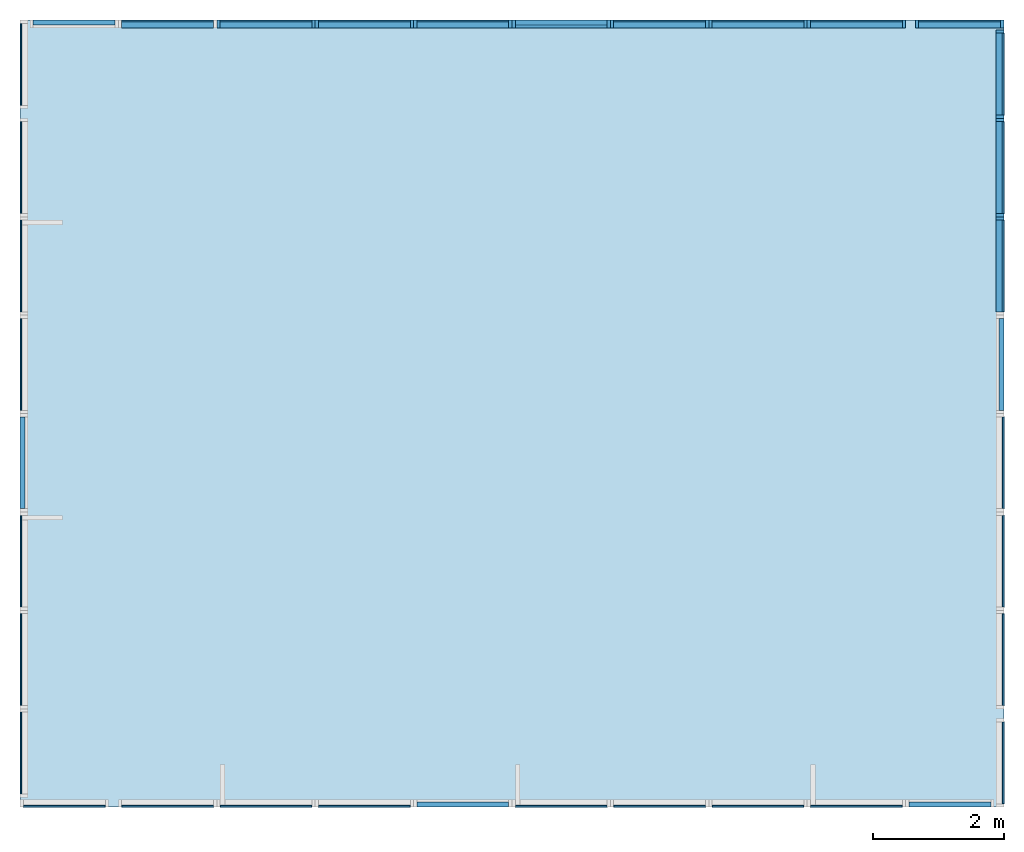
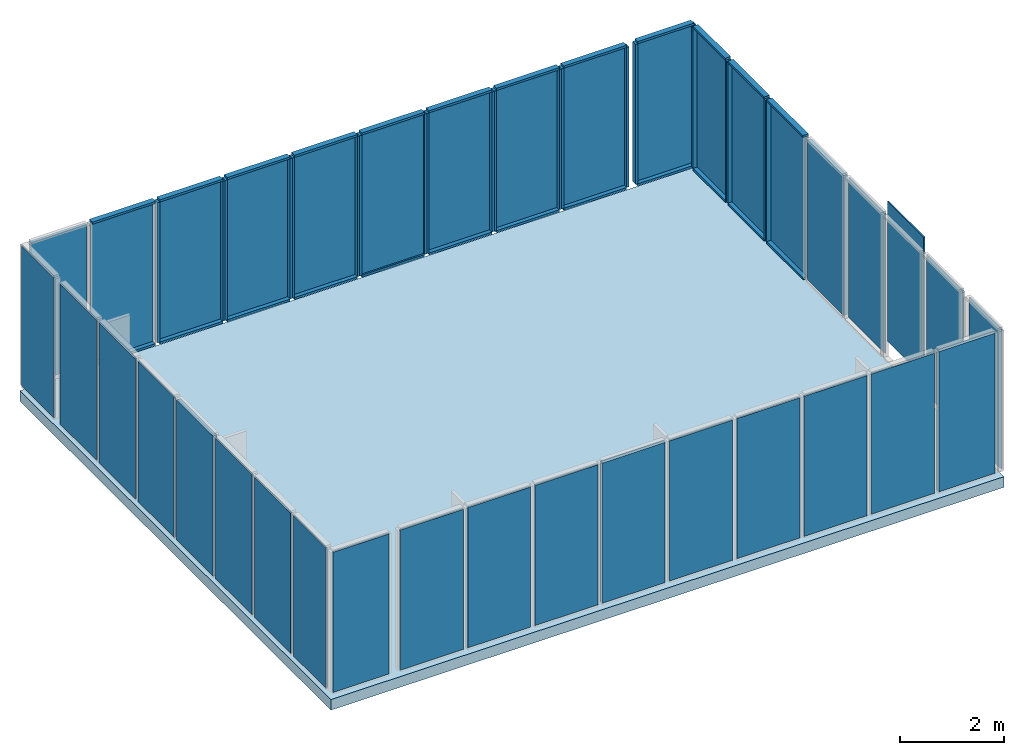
# One storey, part 2 of 2: 45 members, 36 plates, 1 slab.
"""IFC4 building model written with IfcOpenShell, lengths in metres."""

from ifc_helpers import new_model, si_unit, frame, origin_with_axes, place, context, subcontext, project, spatial, indexed_curve, outline, extrude, material, element, save


model = new_model("IFC4")

# Units and contexts
model_context_1 = context("Model", 3, precision=1e-05, world=origin_with_axes())
model_context_2 = context("Model", 3, precision=1e-05, world=origin_with_axes())
body_context_1 = subcontext(model_context_1, "Body", "Model", "MODEL_VIEW")
body_context_2 = subcontext(model_context_2, "Body", "Model", "MODEL_VIEW")
ifc_project = project(units=[si_unit("AREAUNIT", "SQUARE_METRE"), si_unit("VOLUMEUNIT", "CUBIC_METRE"), si_unit("LENGTHUNIT", "METRE")], contexts=[model_context_1])

# Site, building, storey
site = spatial("IfcSite", under=ifc_project, Name="Synthetic Site")
building = spatial("IfcBuilding", under=site, Name="Complex Tower")
storey_placement = place(None, frame((0.0, 0.0, 37.8), z_axis=(0.0, 0.0, 1.0), x_axis=(1.0, 0.0, 0.0)))
storey = spatial("IfcBuildingStorey", under=building, at=storey_placement, Name="L11", Elevation=37.8)

# Members
ifc_material_1 = material(Name="Aluminium")
member_placement = place(storey_placement, frame((21.0, 11.950000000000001, 0.14999999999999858), z_axis=(0.0, 0.0, 1.0), x_axis=(6.123233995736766e-17, 1.0, 0.0)))
element("IfcMember", 1, at=member_placement, inside=storey, material=ifc_material_1, Name="CT-L11-E-006-MR", PredefinedType="MULLION", context=body_context_1, shape_type="SweptSolid", body=[
    extrude(outline(indexed_curve([(0.0, 0.0), (0.0, 0.12), (0.05, 0.12), (0.05, 0.0), (0.0, 0.0)], self_intersect=False)), origin_with_axes(), (0.0, 0.0, 1.0), 3.3000000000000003),
])
for number, where, z_axis, x_axis, name in (
    (2, (21.0, 10.55, 0.10000000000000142), (0.0, 0.0, 1.0), (6.123233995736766e-17, 1.0, 0.0), "CT-L11-E-006-FB"),
    (3, (21.0, 10.55, 3.4499999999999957), (0.0, 0.0, 1.0), (6.123233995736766e-17, 1.0, 0.0), "CT-L11-E-006-FT"),
):
    element("IfcMember", number, at=place(storey_placement, frame(where, z_axis=z_axis, x_axis=x_axis)), inside=storey, material=ifc_material_1, Name=name, PredefinedType="MULLION", context=body_context_1, shape_type="SweptSolid", body=[
        extrude(outline(indexed_curve([(0.0, 0.0), (0.0, 0.12), (1.4, 0.12), (1.4, 0.0), (0.0, 0.0)], self_intersect=False)), origin_with_axes(), (0.0, 0.0, 1.0), 0.05),
    ])
for number, where, z_axis, x_axis, name in (
    (4, (21.0, 12.0, 0.14999999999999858), (0.0, 0.0, 1.0), (6.123233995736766e-17, 1.0, 0.0), "CT-L11-E-007-ML"),
    (5, (21.0, 13.450000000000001, 0.14999999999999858), (0.0, 0.0, 1.0), (6.123233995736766e-17, 1.0, 0.0), "CT-L11-E-007-MR"),
):
    element("IfcMember", number, at=place(storey_placement, frame(where, z_axis=z_axis, x_axis=x_axis)), inside=storey, material=ifc_material_1, Name=name, PredefinedType="MULLION", context=body_context_1, shape_type="SweptSolid", body=[
        extrude(outline(indexed_curve([(0.0, 0.0), (0.0, 0.12), (0.05, 0.12), (0.05, 0.0), (0.0, 0.0)], self_intersect=False)), origin_with_axes(), (0.0, 0.0, 1.0), 3.3000000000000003),
    ])
for number, where, z_axis, x_axis, name in (
    (6, (21.0, 12.05, 0.10000000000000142), (0.0, 0.0, 1.0), (6.123233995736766e-17, 1.0, 0.0), "CT-L11-E-007-FB"),
    (7, (21.0, 12.05, 3.4499999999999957), (0.0, 0.0, 1.0), (6.123233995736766e-17, 1.0, 0.0), "CT-L11-E-007-FT"),
):
    element("IfcMember", number, at=place(storey_placement, frame(where, z_axis=z_axis, x_axis=x_axis)), inside=storey, material=ifc_material_1, Name=name, PredefinedType="MULLION", context=body_context_1, shape_type="SweptSolid", body=[
        extrude(outline(indexed_curve([(0.0, 0.0), (0.0, 0.12), (1.4, 0.12), (1.4, 0.0), (0.0, 0.0)], self_intersect=False)), origin_with_axes(), (0.0, 0.0, 1.0), 0.05),
    ])
for number, where, z_axis, x_axis, name in (
    (8, (21.0, 13.5, 0.14999999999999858), (0.0, 0.0, 1.0), (6.123233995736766e-17, 1.0, 0.0), "CT-L11-E-008-ML"),
    (9, (21.0, 14.8, 0.14999999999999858), (0.0, 0.0, 1.0), (6.123233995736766e-17, 1.0, 0.0), "CT-L11-E-008-MR"),
):
    element("IfcMember", number, at=place(storey_placement, frame(where, z_axis=z_axis, x_axis=x_axis)), inside=storey, material=ifc_material_1, Name=name, PredefinedType="MULLION", context=body_context_1, shape_type="SweptSolid", body=[
        extrude(outline(indexed_curve([(0.0, 0.0), (0.0, 0.12), (0.05, 0.12), (0.05, 0.0), (0.0, 0.0)], self_intersect=False)), origin_with_axes(), (0.0, 0.0, 1.0), 3.3000000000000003),
    ])
for number, where, z_axis, x_axis, name in (
    (10, (21.0, 13.55, 0.10000000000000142), (0.0, 0.0, 1.0), (6.123233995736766e-17, 1.0, 0.0), "CT-L11-E-008-FB"),
    (11, (21.0, 13.55, 3.4499999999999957), (0.0, 0.0, 1.0), (6.123233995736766e-17, 1.0, 0.0), "CT-L11-E-008-FT"),
):
    element("IfcMember", number, at=place(storey_placement, frame(where, z_axis=z_axis, x_axis=x_axis)), inside=storey, material=ifc_material_1, Name=name, PredefinedType="MULLION", context=body_context_1, shape_type="SweptSolid", body=[
        extrude(outline(indexed_curve([(0.0, 0.0), (0.0, 0.12), (1.25, 0.12), (1.25, 0.0), (0.0, 0.0)], self_intersect=False)), origin_with_axes(), (0.0, 0.0, 1.0), 0.05),
    ])
for number, where, z_axis, x_axis, name in (
    (12, (21.0, 15.0, 0.14999999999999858), (0.0, 0.0, 1.0), (-1.0, 1.2246467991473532e-16, 0.0), "CT-L11-N-001-ML"),
    (13, (19.7, 15.0, 0.14999999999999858), (0.0, 0.0, 1.0), (-1.0, 1.2246467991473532e-16, 0.0), "CT-L11-N-001-MR"),
):
    element("IfcMember", number, at=place(storey_placement, frame(where, z_axis=z_axis, x_axis=x_axis)), inside=storey, material=ifc_material_1, Name=name, PredefinedType="MULLION", context=body_context_1, shape_type="SweptSolid", body=[
        extrude(outline(indexed_curve([(0.0, 0.0), (0.0, 0.12), (0.05, 0.12), (0.05, 0.0), (0.0, 0.0)], self_intersect=False)), origin_with_axes(), (0.0, 0.0, 1.0), 3.3000000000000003),
    ])
for number, where, z_axis, x_axis, name in (
    (14, (20.95, 15.0, 0.10000000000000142), (0.0, 0.0, 1.0), (-1.0, 1.2246467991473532e-16, 0.0), "CT-L11-N-001-FB"),
    (15, (20.95, 15.0, 3.4499999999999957), (0.0, 0.0, 1.0), (-1.0, 1.2246467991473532e-16, 0.0), "CT-L11-N-001-FT"),
):
    element("IfcMember", number, at=place(storey_placement, frame(where, z_axis=z_axis, x_axis=x_axis)), inside=storey, material=ifc_material_1, Name=name, PredefinedType="MULLION", context=body_context_1, shape_type="SweptSolid", body=[
        extrude(outline(indexed_curve([(0.0, 0.0), (0.0, 0.12), (1.25, 0.12), (1.25, 0.0), (0.0, 0.0)], self_intersect=False)), origin_with_axes(), (0.0, 0.0, 1.0), 0.05),
    ])
for number, where, z_axis, x_axis, name in (
    (16, (19.5, 15.0, 0.14999999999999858), (0.0, 0.0, 1.0), (-1.0, 1.2246467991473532e-16, 0.0), "CT-L11-N-002-ML"),
    (17, (18.05, 15.0, 0.14999999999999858), (0.0, 0.0, 1.0), (-1.0, 1.2246467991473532e-16, 0.0), "CT-L11-N-002-MR"),
):
    element("IfcMember", number, at=place(storey_placement, frame(where, z_axis=z_axis, x_axis=x_axis)), inside=storey, material=ifc_material_1, Name=name, PredefinedType="MULLION", context=body_context_1, shape_type="SweptSolid", body=[
        extrude(outline(indexed_curve([(0.0, 0.0), (0.0, 0.12), (0.05, 0.12), (0.05, 0.0), (0.0, 0.0)], self_intersect=False)), origin_with_axes(), (0.0, 0.0, 1.0), 3.3000000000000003),
    ])
for number, where, z_axis, x_axis, name in (
    (18, (19.45, 15.0, 0.10000000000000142), (0.0, 0.0, 1.0), (-1.0, 1.2246467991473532e-16, 0.0), "CT-L11-N-002-FB"),
    (19, (19.45, 15.0, 3.4499999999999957), (0.0, 0.0, 1.0), (-1.0, 1.2246467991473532e-16, 0.0), "CT-L11-N-002-FT"),
):
    element("IfcMember", number, at=place(storey_placement, frame(where, z_axis=z_axis, x_axis=x_axis)), inside=storey, material=ifc_material_1, Name=name, PredefinedType="MULLION", context=body_context_1, shape_type="SweptSolid", body=[
        extrude(outline(indexed_curve([(0.0, 0.0), (0.0, 0.12), (1.4, 0.12), (1.4, 0.0), (0.0, 0.0)], self_intersect=False)), origin_with_axes(), (0.0, 0.0, 1.0), 0.05),
    ])
for number, where, z_axis, x_axis, name in (
    (20, (18.0, 15.0, 0.14999999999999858), (0.0, 0.0, 1.0), (-1.0, 1.2246467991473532e-16, 0.0), "CT-L11-N-003-ML"),
    (21, (16.55, 15.0, 0.14999999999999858), (0.0, 0.0, 1.0), (-1.0, 1.2246467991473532e-16, 0.0), "CT-L11-N-003-MR"),
):
    element("IfcMember", number, at=place(storey_placement, frame(where, z_axis=z_axis, x_axis=x_axis)), inside=storey, material=ifc_material_1, Name=name, PredefinedType="MULLION", context=body_context_1, shape_type="SweptSolid", body=[
        extrude(outline(indexed_curve([(0.0, 0.0), (0.0, 0.12), (0.05, 0.12), (0.05, 0.0), (0.0, 0.0)], self_intersect=False)), origin_with_axes(), (0.0, 0.0, 1.0), 3.3000000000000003),
    ])
for number, where, z_axis, x_axis, name in (
    (22, (17.95, 15.0, 0.10000000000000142), (0.0, 0.0, 1.0), (-1.0, 1.2246467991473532e-16, 0.0), "CT-L11-N-003-FB"),
    (23, (17.95, 15.0, 3.4499999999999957), (0.0, 0.0, 1.0), (-1.0, 1.2246467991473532e-16, 0.0), "CT-L11-N-003-FT"),
):
    element("IfcMember", number, at=place(storey_placement, frame(where, z_axis=z_axis, x_axis=x_axis)), inside=storey, material=ifc_material_1, Name=name, PredefinedType="MULLION", context=body_context_1, shape_type="SweptSolid", body=[
        extrude(outline(indexed_curve([(0.0, 0.0), (0.0, 0.12), (1.4, 0.12), (1.4, 0.0), (0.0, 0.0)], self_intersect=False)), origin_with_axes(), (0.0, 0.0, 1.0), 0.05),
    ])
for number, where, z_axis, x_axis, name in (
    (24, (16.5, 15.0, 0.14999999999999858), (0.0, 0.0, 1.0), (-1.0, 1.2246467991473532e-16, 0.0), "CT-L11-N-004-ML"),
    (25, (15.049999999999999, 15.0, 0.14999999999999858), (0.0, 0.0, 1.0), (-1.0, 1.2246467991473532e-16, 0.0), "CT-L11-N-004-MR"),
):
    element("IfcMember", number, at=place(storey_placement, frame(where, z_axis=z_axis, x_axis=x_axis)), inside=storey, material=ifc_material_1, Name=name, PredefinedType="MULLION", context=body_context_1, shape_type="SweptSolid", body=[
        extrude(outline(indexed_curve([(0.0, 0.0), (0.0, 0.12), (0.05, 0.12), (0.05, 0.0), (0.0, 0.0)], self_intersect=False)), origin_with_axes(), (0.0, 0.0, 1.0), 3.3000000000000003),
    ])
for number, where, z_axis, x_axis, name in (
    (26, (16.45, 15.0, 0.10000000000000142), (0.0, 0.0, 1.0), (-1.0, 1.2246467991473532e-16, 0.0), "CT-L11-N-004-FB"),
    (27, (16.45, 15.0, 3.4499999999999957), (0.0, 0.0, 1.0), (-1.0, 1.2246467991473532e-16, 0.0), "CT-L11-N-004-FT"),
):
    element("IfcMember", number, at=place(storey_placement, frame(where, z_axis=z_axis, x_axis=x_axis)), inside=storey, material=ifc_material_1, Name=name, PredefinedType="MULLION", context=body_context_1, shape_type="SweptSolid", body=[
        extrude(outline(indexed_curve([(0.0, 0.0), (0.0, 0.12), (1.4, 0.12), (1.4, 0.0), (0.0, 0.0)], self_intersect=False)), origin_with_axes(), (0.0, 0.0, 1.0), 0.05),
    ])
for number, where, z_axis, x_axis, name in (
    (28, (15.0, 15.0, 0.14999999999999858), (0.0, 0.0, 1.0), (-1.0, 1.2246467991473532e-16, 0.0), "CT-L11-N-005-ML"),
    (29, (13.549999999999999, 15.0, 0.14999999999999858), (0.0, 0.0, 1.0), (-1.0, 1.2246467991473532e-16, 0.0), "CT-L11-N-005-MR"),
):
    element("IfcMember", number, at=place(storey_placement, frame(where, z_axis=z_axis, x_axis=x_axis)), inside=storey, material=ifc_material_1, Name=name, PredefinedType="MULLION", context=body_context_1, shape_type="SweptSolid", body=[
        extrude(outline(indexed_curve([(0.0, 0.0), (0.0, 0.12), (0.05, 0.12), (0.05, 0.0), (0.0, 0.0)], self_intersect=False)), origin_with_axes(), (0.0, 0.0, 1.0), 3.3000000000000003),
    ])
for number, where, z_axis, x_axis, name in (
    (30, (14.95, 15.0, 0.10000000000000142), (0.0, 0.0, 1.0), (-1.0, 1.2246467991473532e-16, 0.0), "CT-L11-N-005-FB"),
    (31, (14.95, 15.0, 3.4499999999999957), (0.0, 0.0, 1.0), (-1.0, 1.2246467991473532e-16, 0.0), "CT-L11-N-005-FT"),
):
    element("IfcMember", number, at=place(storey_placement, frame(where, z_axis=z_axis, x_axis=x_axis)), inside=storey, material=ifc_material_1, Name=name, PredefinedType="MULLION", context=body_context_1, shape_type="SweptSolid", body=[
        extrude(outline(indexed_curve([(0.0, 0.0), (0.0, 0.12), (1.4, 0.12), (1.4, 0.0), (0.0, 0.0)], self_intersect=False)), origin_with_axes(), (0.0, 0.0, 1.0), 0.05),
    ])
for number, where, z_axis, x_axis, name in (
    (32, (13.5, 15.000000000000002, 0.14999999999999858), (0.0, 0.0, 1.0), (-1.0, 1.2246467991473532e-16, 0.0), "CT-L11-N-006-ML"),
    (33, (12.049999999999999, 15.000000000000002, 0.14999999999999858), (0.0, 0.0, 1.0), (-1.0, 1.2246467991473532e-16, 0.0), "CT-L11-N-006-MR"),
):
    element("IfcMember", number, at=place(storey_placement, frame(where, z_axis=z_axis, x_axis=x_axis)), inside=storey, material=ifc_material_1, Name=name, PredefinedType="MULLION", context=body_context_1, shape_type="SweptSolid", body=[
        extrude(outline(indexed_curve([(0.0, 0.0), (0.0, 0.12), (0.05, 0.12), (0.05, 0.0), (0.0, 0.0)], self_intersect=False)), origin_with_axes(), (0.0, 0.0, 1.0), 3.3000000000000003),
    ])
for number, where, z_axis, x_axis, name in (
    (34, (13.45, 15.000000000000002, 0.10000000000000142), (0.0, 0.0, 1.0), (-1.0, 1.2246467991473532e-16, 0.0), "CT-L11-N-006-FB"),
    (35, (13.45, 15.000000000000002, 3.4499999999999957), (0.0, 0.0, 1.0), (-1.0, 1.2246467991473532e-16, 0.0), "CT-L11-N-006-FT"),
):
    element("IfcMember", number, at=place(storey_placement, frame(where, z_axis=z_axis, x_axis=x_axis)), inside=storey, material=ifc_material_1, Name=name, PredefinedType="MULLION", context=body_context_1, shape_type="SweptSolid", body=[
        extrude(outline(indexed_curve([(0.0, 0.0), (0.0, 0.12), (1.4, 0.12), (1.4, 0.0), (0.0, 0.0)], self_intersect=False)), origin_with_axes(), (0.0, 0.0, 1.0), 0.05),
    ])
for number, where, z_axis, x_axis, name in (
    (36, (12.0, 15.000000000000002, 0.14999999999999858), (0.0, 0.0, 1.0), (-1.0, 1.2246467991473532e-16, 0.0), "CT-L11-N-007-ML"),
    (37, (10.549999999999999, 15.000000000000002, 0.14999999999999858), (0.0, 0.0, 1.0), (-1.0, 1.2246467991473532e-16, 0.0), "CT-L11-N-007-MR"),
):
    element("IfcMember", number, at=place(storey_placement, frame(where, z_axis=z_axis, x_axis=x_axis)), inside=storey, material=ifc_material_1, Name=name, PredefinedType="MULLION", context=body_context_1, shape_type="SweptSolid", body=[
        extrude(outline(indexed_curve([(0.0, 0.0), (0.0, 0.12), (0.05, 0.12), (0.05, 0.0), (0.0, 0.0)], self_intersect=False)), origin_with_axes(), (0.0, 0.0, 1.0), 3.3000000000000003),
    ])
for number, where, z_axis, x_axis, name in (
    (38, (11.95, 15.000000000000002, 0.10000000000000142), (0.0, 0.0, 1.0), (-1.0, 1.2246467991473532e-16, 0.0), "CT-L11-N-007-FB"),
    (39, (11.95, 15.000000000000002, 3.4499999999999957), (0.0, 0.0, 1.0), (-1.0, 1.2246467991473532e-16, 0.0), "CT-L11-N-007-FT"),
):
    element("IfcMember", number, at=place(storey_placement, frame(where, z_axis=z_axis, x_axis=x_axis)), inside=storey, material=ifc_material_1, Name=name, PredefinedType="MULLION", context=body_context_1, shape_type="SweptSolid", body=[
        extrude(outline(indexed_curve([(0.0, 0.0), (0.0, 0.12), (1.4, 0.12), (1.4, 0.0), (0.0, 0.0)], self_intersect=False)), origin_with_axes(), (0.0, 0.0, 1.0), 0.05),
    ])
for number, where, z_axis, x_axis, name in (
    (40, (10.5, 15.000000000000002, 0.14999999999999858), (0.0, 0.0, 1.0), (-1.0, 1.2246467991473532e-16, 0.0), "CT-L11-N-008-ML"),
    (41, (9.049999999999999, 15.000000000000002, 0.14999999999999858), (0.0, 0.0, 1.0), (-1.0, 1.2246467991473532e-16, 0.0), "CT-L11-N-008-MR"),
):
    element("IfcMember", number, at=place(storey_placement, frame(where, z_axis=z_axis, x_axis=x_axis)), inside=storey, material=ifc_material_1, Name=name, PredefinedType="MULLION", context=body_context_1, shape_type="SweptSolid", body=[
        extrude(outline(indexed_curve([(0.0, 0.0), (0.0, 0.12), (0.05, 0.12), (0.05, 0.0), (0.0, 0.0)], self_intersect=False)), origin_with_axes(), (0.0, 0.0, 1.0), 3.3000000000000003),
    ])
for number, where, z_axis, x_axis, name in (
    (42, (10.45, 15.000000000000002, 0.10000000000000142), (0.0, 0.0, 1.0), (-1.0, 1.2246467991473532e-16, 0.0), "CT-L11-N-008-FB"),
    (43, (10.45, 15.000000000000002, 3.4499999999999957), (0.0, 0.0, 1.0), (-1.0, 1.2246467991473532e-16, 0.0), "CT-L11-N-008-FT"),
    (44, (8.95, 15.000000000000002, 0.10000000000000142), (0.0, 0.0, 1.0), (-1.0, 1.2246467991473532e-16, 0.0), "CT-L11-N-009-FB"),
    (45, (8.95, 15.000000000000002, 3.4499999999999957), (0.0, 0.0, 1.0), (-1.0, 1.2246467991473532e-16, 0.0), "CT-L11-N-009-FT"),
):
    element("IfcMember", number, at=place(storey_placement, frame(where, z_axis=z_axis, x_axis=x_axis)), inside=storey, material=ifc_material_1, Name=name, PredefinedType="MULLION", context=body_context_1, shape_type="SweptSolid", body=[
        extrude(outline(indexed_curve([(0.0, 0.0), (0.0, 0.12), (1.4, 0.12), (1.4, 0.0), (0.0, 0.0)], self_intersect=False)), origin_with_axes(), (0.0, 0.0, 1.0), 0.05),
    ])

# Plates
ifc_material_2 = material(Name="Glass")
plate_1_placement = place(storey_placement, frame((6.05, 3.0, 0.14999999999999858), z_axis=(0.0, 0.0, 1.0), x_axis=(1.0, 0.0, 0.0)))
element("IfcPlate", 46, at=plate_1_placement, inside=storey, material=ifc_material_2, Name="CT-L11-S-001", PredefinedType="CURTAIN_PANEL", context=body_context_1, shape_type="SweptSolid", body=[
    extrude(outline(indexed_curve([(0.0, 0.0), (0.0, 0.028), (1.25, 0.028), (1.25, 0.0), (0.0, 0.0)], self_intersect=False)), origin_with_axes(), (0.0, 0.0, 1.0), 3.3000000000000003),
])
for number, where, z_axis, x_axis, name in (
    (47, (7.55, 3.0, 0.14999999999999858), (0.0, 0.0, 1.0), (1.0, 0.0, 0.0), "CT-L11-S-002"),
    (48, (9.05, 3.0, 0.14999999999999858), (0.0, 0.0, 1.0), (1.0, 0.0, 0.0), "CT-L11-S-003"),
    (49, (10.55, 3.0, 0.14999999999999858), (0.0, 0.0, 1.0), (1.0, 0.0, 0.0), "CT-L11-S-004"),
):
    element("IfcPlate", number, at=place(storey_placement, frame(where, z_axis=z_axis, x_axis=x_axis)), inside=storey, material=ifc_material_2, Name=name, PredefinedType="CURTAIN_PANEL", context=body_context_1, shape_type="SweptSolid", body=[
        extrude(outline(indexed_curve([(0.0, 0.0), (0.0, 0.028), (1.4, 0.028), (1.4, 0.0), (0.0, 0.0)], self_intersect=False)), origin_with_axes(), (0.0, 0.0, 1.0), 3.3000000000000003),
    ])
plate_2_placement = place(storey_placement, frame((12.05, 3.0, 0.14999999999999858), z_axis=(0.0, 0.0, 1.0), x_axis=(1.0, 0.0, 0.0)))
element("IfcPlate", 50, at=plate_2_placement, inside=storey, material=ifc_material_1, Name="CT-L11-S-005", PredefinedType="SHEET", context=body_context_1, shape_type="SweptSolid", body=[
    extrude(outline(indexed_curve([(0.0, 0.0), (0.0, 0.08), (1.4, 0.08), (1.4, 0.0), (0.0, 0.0)], self_intersect=False)), origin_with_axes(), (0.0, 0.0, 1.0), 3.3000000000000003),
])
for number, where, z_axis, x_axis, name in (
    (51, (13.55, 3.0, 0.14999999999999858), (0.0, 0.0, 1.0), (1.0, 0.0, 0.0), "CT-L11-S-006"),
    (52, (15.05, 3.0, 0.14999999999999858), (0.0, 0.0, 1.0), (1.0, 0.0, 0.0), "CT-L11-S-007"),
    (53, (16.55, 3.0, 0.14999999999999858), (0.0, 0.0, 1.0), (1.0, 0.0, 0.0), "CT-L11-S-008"),
    (54, (18.05, 3.0, 0.14999999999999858), (0.0, 0.0, 1.0), (1.0, 0.0, 0.0), "CT-L11-S-009"),
):
    element("IfcPlate", number, at=place(storey_placement, frame(where, z_axis=z_axis, x_axis=x_axis)), inside=storey, material=ifc_material_2, Name=name, PredefinedType="CURTAIN_PANEL", context=body_context_1, shape_type="SweptSolid", body=[
        extrude(outline(indexed_curve([(0.0, 0.0), (0.0, 0.028), (1.4, 0.028), (1.4, 0.0), (0.0, 0.0)], self_intersect=False)), origin_with_axes(), (0.0, 0.0, 1.0), 3.3000000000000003),
    ])
plate_3_placement = place(storey_placement, frame((19.55, 3.0, 0.14999999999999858), z_axis=(0.0, 0.0, 1.0), x_axis=(1.0, 0.0, 0.0)))
element("IfcPlate", 55, at=plate_3_placement, inside=storey, material=ifc_material_1, Name="CT-L11-S-010", PredefinedType="SHEET", context=body_context_1, shape_type="SweptSolid", body=[
    extrude(outline(indexed_curve([(0.0, 0.0), (0.0, 0.08), (1.25, 0.08), (1.25, 0.0), (0.0, 0.0)], self_intersect=False)), origin_with_axes(), (0.0, 0.0, 1.0), 3.3000000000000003),
])
plate_4_placement = place(storey_placement, frame((21.0, 3.05, 0.14999999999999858), z_axis=(0.0, 0.0, 1.0), x_axis=(6.123233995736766e-17, 1.0, 0.0)))
element("IfcPlate", 56, at=plate_4_placement, inside=storey, material=ifc_material_2, Name="CT-L11-E-001", PredefinedType="CURTAIN_PANEL", context=body_context_1, shape_type="SweptSolid", body=[
    extrude(outline(indexed_curve([(0.0, 0.0), (0.0, 0.028), (1.25, 0.028), (1.25, 0.0), (0.0, 0.0)], self_intersect=False)), origin_with_axes(), (0.0, 0.0, 1.0), 3.3000000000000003),
])
for number, where, z_axis, x_axis, name in (
    (57, (21.0, 4.55, 0.14999999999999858), (0.0, 0.0, 1.0), (6.123233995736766e-17, 1.0, 0.0), "CT-L11-E-002"),
    (58, (21.0, 7.55, 0.14999999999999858), (0.0, 0.0, 1.0), (6.123233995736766e-17, 1.0, 0.0), "CT-L11-E-004"),
):
    element("IfcPlate", number, at=place(storey_placement, frame(where, z_axis=z_axis, x_axis=x_axis)), inside=storey, material=ifc_material_2, Name=name, PredefinedType="CURTAIN_PANEL", context=body_context_1, shape_type="SweptSolid", body=[
        extrude(outline(indexed_curve([(0.0, 0.0), (0.0, 0.028), (1.4, 0.028), (1.4, 0.0), (0.0, 0.0)], self_intersect=False)), origin_with_axes(), (0.0, 0.0, 1.0), 3.3000000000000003),
    ])
plate_5_placement = place(storey_placement, frame((21.0, 9.05, 0.14999999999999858), z_axis=(0.0, 0.0, 1.0), x_axis=(6.123233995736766e-17, 1.0, 0.0)))
element("IfcPlate", 59, at=plate_5_placement, inside=storey, material=ifc_material_1, Name="CT-L11-E-005", PredefinedType="SHEET", context=body_context_1, shape_type="SweptSolid", body=[
    extrude(outline(indexed_curve([(0.0, 0.0), (0.0, 0.08), (1.4, 0.08), (1.4, 0.0), (0.0, 0.0)], self_intersect=False)), origin_with_axes(), (0.0, 0.0, 1.0), 3.3000000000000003),
])
for number, where, z_axis, x_axis, name in (
    (60, (21.0, 10.55, 0.14999999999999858), (0.0, 0.0, 1.0), (6.123233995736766e-17, 1.0, 0.0), "CT-L11-E-006"),
    (61, (21.0, 12.05, 0.14999999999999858), (0.0, 0.0, 1.0), (6.123233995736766e-17, 1.0, 0.0), "CT-L11-E-007"),
):
    element("IfcPlate", number, at=place(storey_placement, frame(where, z_axis=z_axis, x_axis=x_axis)), inside=storey, material=ifc_material_2, Name=name, PredefinedType="CURTAIN_PANEL", context=body_context_1, shape_type="SweptSolid", body=[
        extrude(outline(indexed_curve([(0.0, 0.0), (0.0, 0.028), (1.4, 0.028), (1.4, 0.0), (0.0, 0.0)], self_intersect=False)), origin_with_axes(), (0.0, 0.0, 1.0), 3.3000000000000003),
    ])
for number, where, z_axis, x_axis, name in (
    (62, (21.0, 13.55, 0.14999999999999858), (0.0, 0.0, 1.0), (6.123233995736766e-17, 1.0, 0.0), "CT-L11-E-008"),
    (63, (20.95, 15.0, 0.14999999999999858), (0.0, 0.0, 1.0), (-1.0, 1.2246467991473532e-16, 0.0), "CT-L11-N-001"),
):
    element("IfcPlate", number, at=place(storey_placement, frame(where, z_axis=z_axis, x_axis=x_axis)), inside=storey, material=ifc_material_2, Name=name, PredefinedType="CURTAIN_PANEL", context=body_context_1, shape_type="SweptSolid", body=[
        extrude(outline(indexed_curve([(0.0, 0.0), (0.0, 0.028), (1.25, 0.028), (1.25, 0.0), (0.0, 0.0)], self_intersect=False)), origin_with_axes(), (0.0, 0.0, 1.0), 3.3000000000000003),
    ])
for number, where, z_axis, x_axis, name in (
    (64, (19.45, 15.0, 0.14999999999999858), (0.0, 0.0, 1.0), (-1.0, 1.2246467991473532e-16, 0.0), "CT-L11-N-002"),
    (65, (17.95, 15.0, 0.14999999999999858), (0.0, 0.0, 1.0), (-1.0, 1.2246467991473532e-16, 0.0), "CT-L11-N-003"),
    (66, (16.45, 15.0, 0.14999999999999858), (0.0, 0.0, 1.0), (-1.0, 1.2246467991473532e-16, 0.0), "CT-L11-N-004"),
):
    element("IfcPlate", number, at=place(storey_placement, frame(where, z_axis=z_axis, x_axis=x_axis)), inside=storey, material=ifc_material_2, Name=name, PredefinedType="CURTAIN_PANEL", context=body_context_1, shape_type="SweptSolid", body=[
        extrude(outline(indexed_curve([(0.0, 0.0), (0.0, 0.028), (1.4, 0.028), (1.4, 0.0), (0.0, 0.0)], self_intersect=False)), origin_with_axes(), (0.0, 0.0, 1.0), 3.3000000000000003),
    ])
plate_6_placement = place(storey_placement, frame((14.95, 15.0, 0.14999999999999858), z_axis=(0.0, 0.0, 1.0), x_axis=(-1.0, 1.2246467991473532e-16, 0.0)))
element("IfcPlate", 67, at=plate_6_placement, inside=storey, material=ifc_material_1, Name="CT-L11-N-005", PredefinedType="SHEET", context=body_context_1, shape_type="SweptSolid", body=[
    extrude(outline(indexed_curve([(0.0, 0.0), (0.0, 0.08), (1.4, 0.08), (1.4, 0.0), (0.0, 0.0)], self_intersect=False)), origin_with_axes(), (0.0, 0.0, 1.0), 3.3000000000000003),
])
for number, where, z_axis, x_axis, name in (
    (68, (13.45, 15.000000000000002, 0.14999999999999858), (0.0, 0.0, 1.0), (-1.0, 1.2246467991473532e-16, 0.0), "CT-L11-N-006"),
    (69, (11.95, 15.000000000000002, 0.14999999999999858), (0.0, 0.0, 1.0), (-1.0, 1.2246467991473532e-16, 0.0), "CT-L11-N-007"),
    (70, (10.45, 15.000000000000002, 0.14999999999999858), (0.0, 0.0, 1.0), (-1.0, 1.2246467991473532e-16, 0.0), "CT-L11-N-008"),
    (71, (8.95, 15.000000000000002, 0.14999999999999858), (0.0, 0.0, 1.0), (-1.0, 1.2246467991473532e-16, 0.0), "CT-L11-N-009"),
):
    element("IfcPlate", number, at=place(storey_placement, frame(where, z_axis=z_axis, x_axis=x_axis)), inside=storey, material=ifc_material_2, Name=name, PredefinedType="CURTAIN_PANEL", context=body_context_1, shape_type="SweptSolid", body=[
        extrude(outline(indexed_curve([(0.0, 0.0), (0.0, 0.028), (1.4, 0.028), (1.4, 0.0), (0.0, 0.0)], self_intersect=False)), origin_with_axes(), (0.0, 0.0, 1.0), 3.3000000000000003),
    ])
plate_7_placement = place(storey_placement, frame((7.449999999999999, 15.000000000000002, 0.14999999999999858), z_axis=(0.0, 0.0, 1.0), x_axis=(-1.0, 1.2246467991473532e-16, 0.0)))
element("IfcPlate", 72, at=plate_7_placement, inside=storey, material=ifc_material_1, Name="CT-L11-N-010", PredefinedType="SHEET", context=body_context_1, shape_type="SweptSolid", body=[
    extrude(outline(indexed_curve([(0.0, 0.0), (0.0, 0.08), (1.25, 0.08), (1.25, 0.0), (0.0, 0.0)], self_intersect=False)), origin_with_axes(), (0.0, 0.0, 1.0), 3.3000000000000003),
])
plate_8_placement = place(storey_placement, frame((6.0, 14.95, 0.14999999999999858), z_axis=(0.0, 0.0, 1.0), x_axis=(-1.8369701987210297e-16, -1.0, 0.0)))
element("IfcPlate", 73, at=plate_8_placement, inside=storey, material=ifc_material_2, Name="CT-L11-W-001", PredefinedType="CURTAIN_PANEL", context=body_context_1, shape_type="SweptSolid", body=[
    extrude(outline(indexed_curve([(0.0, 0.0), (0.0, 0.028), (1.25, 0.028), (1.25, 0.0), (0.0, 0.0)], self_intersect=False)), origin_with_axes(), (0.0, 0.0, 1.0), 3.3000000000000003),
])
for number, where, z_axis, x_axis, name in (
    (74, (6.0, 13.45, 0.14999999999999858), (0.0, 0.0, 1.0), (-1.8369701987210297e-16, -1.0, 0.0), "CT-L11-W-002"),
    (75, (5.999999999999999, 11.95, 0.14999999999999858), (0.0, 0.0, 1.0), (-1.8369701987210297e-16, -1.0, 0.0), "CT-L11-W-003"),
    (76, (5.999999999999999, 10.45, 0.14999999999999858), (0.0, 0.0, 1.0), (-1.8369701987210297e-16, -1.0, 0.0), "CT-L11-W-004"),
):
    element("IfcPlate", number, at=place(storey_placement, frame(where, z_axis=z_axis, x_axis=x_axis)), inside=storey, material=ifc_material_2, Name=name, PredefinedType="CURTAIN_PANEL", context=body_context_1, shape_type="SweptSolid", body=[
        extrude(outline(indexed_curve([(0.0, 0.0), (0.0, 0.028), (1.4, 0.028), (1.4, 0.0), (0.0, 0.0)], self_intersect=False)), origin_with_axes(), (0.0, 0.0, 1.0), 3.3000000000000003),
    ])
plate_9_placement = place(storey_placement, frame((5.999999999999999, 8.95, 0.14999999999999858), z_axis=(0.0, 0.0, 1.0), x_axis=(-1.8369701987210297e-16, -1.0, 0.0)))
element("IfcPlate", 77, at=plate_9_placement, inside=storey, material=ifc_material_1, Name="CT-L11-W-005", PredefinedType="SHEET", context=body_context_1, shape_type="SweptSolid", body=[
    extrude(outline(indexed_curve([(0.0, 0.0), (0.0, 0.08), (1.4, 0.08), (1.4, 0.0), (0.0, 0.0)], self_intersect=False)), origin_with_axes(), (0.0, 0.0, 1.0), 3.3000000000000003),
])
for number, where, z_axis, x_axis, name in (
    (78, (5.999999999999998, 7.45, 0.14999999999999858), (0.0, 0.0, 1.0), (-1.8369701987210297e-16, -1.0, 0.0), "CT-L11-W-006"),
    (79, (5.999999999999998, 5.949999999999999, 0.14999999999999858), (0.0, 0.0, 1.0), (-1.8369701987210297e-16, -1.0, 0.0), "CT-L11-W-007"),
):
    element("IfcPlate", number, at=place(storey_placement, frame(where, z_axis=z_axis, x_axis=x_axis)), inside=storey, material=ifc_material_2, Name=name, PredefinedType="CURTAIN_PANEL", context=body_context_1, shape_type="SweptSolid", body=[
        extrude(outline(indexed_curve([(0.0, 0.0), (0.0, 0.028), (1.4, 0.028), (1.4, 0.0), (0.0, 0.0)], self_intersect=False)), origin_with_axes(), (0.0, 0.0, 1.0), 3.3000000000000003),
    ])
plate_10_placement = place(storey_placement, frame((5.999999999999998, 4.449999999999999, 0.14999999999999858), z_axis=(0.0, 0.0, 1.0), x_axis=(-1.8369701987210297e-16, -1.0, 0.0)))
element("IfcPlate", 80, at=plate_10_placement, inside=storey, material=ifc_material_2, Name="CT-L11-W-008", PredefinedType="CURTAIN_PANEL", context=body_context_1, shape_type="SweptSolid", body=[
    extrude(outline(indexed_curve([(0.0, 0.0), (0.0, 0.028), (1.25, 0.028), (1.25, 0.0), (0.0, 0.0)], self_intersect=False)), origin_with_axes(), (0.0, 0.0, 1.0), 3.3000000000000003),
])

# Slab
ifc_material_3 = material(Name="Concrete")
slab_placement = place(storey_placement, frame((6.0, 3.0, -0.25), z_axis=(0.0, 0.0, 1.0), x_axis=(1.0, 0.0, 0.0)))
element("IfcSlab", 81, at=slab_placement, inside=storey, material=ifc_material_3, Name="CT-SLAB-11", PredefinedType="FLOOR", context=body_context_1, shape_type="SweptSolid", body=[
    extrude(outline(indexed_curve([(0.0, 0.0), (0.0, 12.0), (15.0, 12.0), (15.0, 0.0), (0.0, 0.0)], self_intersect=False)), origin_with_axes(), (0.0, 0.0, 1.0), 0.25),
])

# Plate
plate_11_placement = place(storey_placement, frame((21.0, 6.05, 0.5), z_axis=(0.0, 0.0, 1.0), x_axis=(6.123233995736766e-17, 1.0, 0.0)))
element("IfcPlate", 82, at=plate_11_placement, inside=storey, material=ifc_material_2, Name="CT-L11-E-NEW", PredefinedType="CURTAIN_PANEL", context=body_context_2, shape_type="SweptSolid", body=[
    extrude(outline(indexed_curve([(0.0, 0.0), (0.0, 0.028), (1.4, 0.028), (1.4, 0.0), (0.0, 0.0)], self_intersect=False)), origin_with_axes(), (0.0, 0.0, 1.0), 3.3000000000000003),
])

save(model, "model.ifc")
